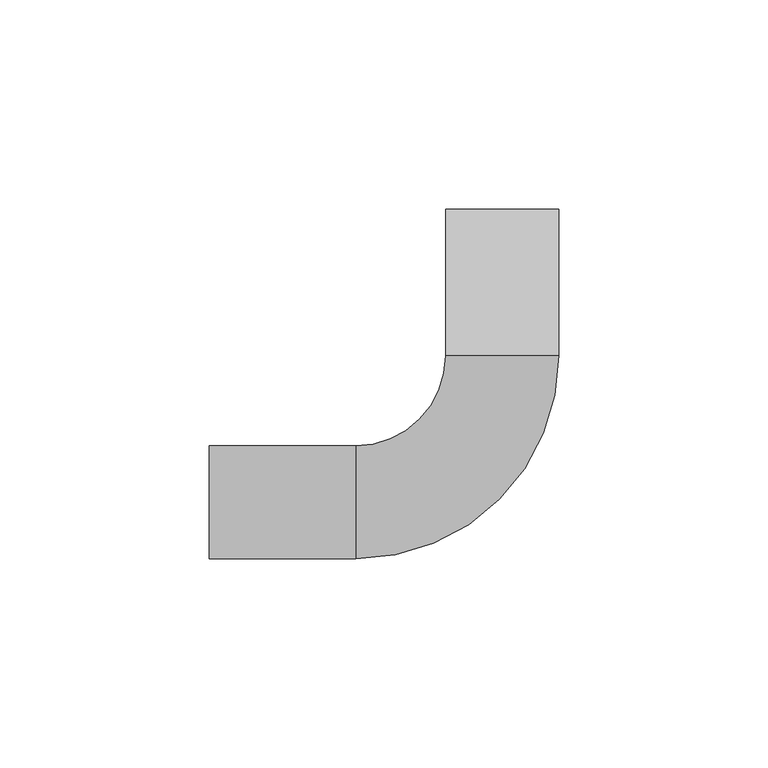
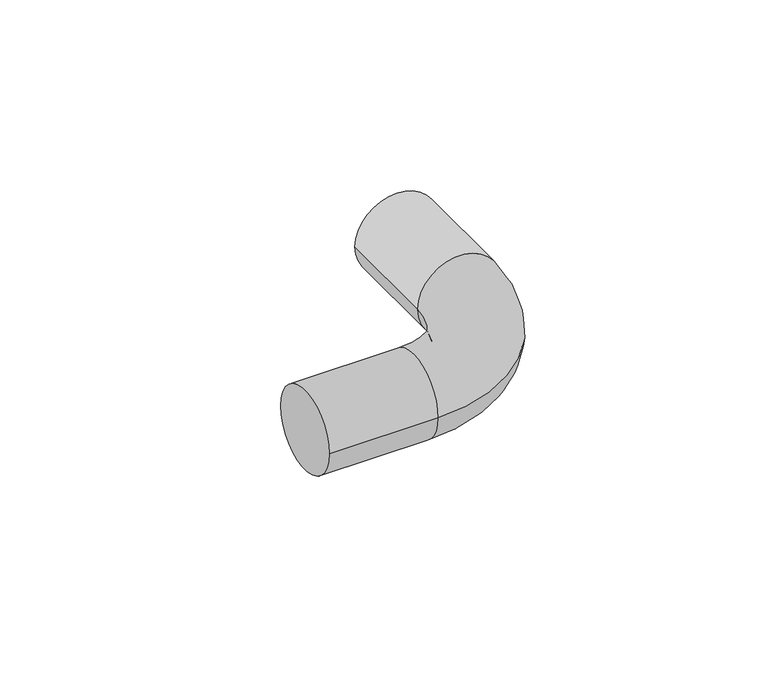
"""IFC4 building model written with IfcOpenShell, lengths in millimetres: cable carrier fitting geometry, Угол_90_соед._для_труб : Угол 90 соед. для трубы 25мм (25шт) серый."""

import ifcopenshell
import ifcopenshell.guid

model = None  # the IFC model being written
_history = None  # IfcOwnerHistory: only IFC2X3 demands one
_inside = {}  # id of a spatial element -> (the spatial element, [elements in it])
_under = {}  # id of a project, library or spatial element -> (it, [spatial elements below it])
_declared = {}  # id of a project -> (the project, [libraries it declares])
_typed = {}  # id of a type object -> (the type object, [elements of that type])
_made_of = {}  # id of a material, layer set ... -> (it, [elements and type objects made of it])


def new_model(schema):
    """Start an empty IFC model of exactly this schema.

    Asked for "IFC4X3", IfcOpenShell would pick the latest addendum, in which some entities
    have other attributes; the version numbers below select the first issue.
    IFC2X3 requires an IfcOwnerHistory on every rooted entity: one is made here for all.
    """
    global model, _history
    if schema == "IFC4X3":
        model = ifcopenshell.file(schema_version=(4, 3, 0, 0))
    else:
        model = ifcopenshell.file(schema=schema)
    _inside.clear()
    _under.clear()
    _declared.clear()
    _typed.clear()
    _made_of.clear()
    _history = None
    if model.schema == "IFC2X3":
        org = make("IfcOrganization", Name="unknown")
        user = make(
            "IfcPersonAndOrganization",
            ThePerson=make("IfcPerson", FamilyName="unknown"),
            TheOrganization=org,
        )
        app = make(
            "IfcApplication",
            ApplicationDeveloper=org,
            Version="unknown",
            ApplicationFullName="unknown",
            ApplicationIdentifier="unknown",
        )
        _history = make(
            "IfcOwnerHistory",
            OwningUser=user,
            OwningApplication=app,
            ChangeAction="ADDED",
            CreationDate=0,
        )
    return model


def make(cls, **values):
    """One entity of the class cls with the attributes given. An attribute that is None is left unset."""
    return model.create_entity(
        cls, **{name: value for name, value in values.items() if value is not None}
    )


def rooted(cls, **values):
    """An entity with a GlobalId (a new one), such as an element, a storey or a relation."""
    return make(cls, GlobalId=ifcopenshell.guid.new(), OwnerHistory=_history, **values)


def si_unit(unit_type, name, prefix=None):
    """IfcSIUnit, for example si_unit("LENGTHUNIT", "METRE", prefix="MILLI")."""
    return make("IfcSIUnit", UnitType=unit_type, Prefix=prefix, Name=name)


def assignment(units):
    """IfcUnitAssignment: the units of a project."""
    return None if units is None else make("IfcUnitAssignment", Units=units)


def point(xyz):
    """IfcCartesianPoint."""
    return None if xyz is None else make("IfcCartesianPoint", Coordinates=xyz)


def direction(xyz):
    """IfcDirection."""
    return None if xyz is None else make("IfcDirection", DirectionRatios=xyz)


def frame(location, z_axis=None, x_axis=None):
    """IfcAxis2Placement3D, a coordinate frame: its origin and axes. An axis left out is left unset."""
    return make(
        "IfcAxis2Placement3D",
        Location=point(location),
        Axis=direction(z_axis),
        RefDirection=direction(x_axis),
    )


def origin():
    """The frame at (0, 0, 0) with its axes left unset."""
    return frame((0.0, 0.0, 0.0))


def place(relative_to, where):
    """IfcLocalPlacement: puts the frame where relative to a parent placement (None: the world)."""
    return make(
        "IfcLocalPlacement", PlacementRelTo=relative_to, RelativePlacement=where
    )


def context(
    kind, dimensions, precision=None, world=None, true_north=None, identifier=None
):
    """IfcGeometricRepresentationContext, for example the 3D "Model" context."""
    return make(
        "IfcGeometricRepresentationContext",
        ContextIdentifier=identifier,
        ContextType=kind,
        CoordinateSpaceDimension=dimensions,
        Precision=precision,
        WorldCoordinateSystem=world,
        TrueNorth=true_north,
    )


def project(units=None, contexts=None):
    """IfcProject with its units and contexts."""
    return rooted(
        "IfcProject",
        Name="project",
        RepresentationContexts=contexts,
        UnitsInContext=assignment(units),
    )


def spatial(cls, under=None, at=None, **own):
    """A site, building, storey or space (cls), placed at a placement, below another one or the project."""
    s = rooted(cls, ObjectPlacement=at, **own)
    if under is not None:
        _under.setdefault(under.id(), (under, []))[1].append(s)
    return s


def circle_curve(where, radius):
    """IfcCircle in the frame where."""
    return make("IfcCircle", Position=where, Radius=radius)


def ellipse_curve(where, semi_axis1, semi_axis2):
    """IfcEllipse in the frame where."""
    return make(
        "IfcEllipse", Position=where, SemiAxis1=semi_axis1, SemiAxis2=semi_axis2
    )


def trimmed(basis, trim1, trim2, sense, master):
    """IfcTrimmedCurve: the piece of a basis curve between two trims."""
    return make(
        "IfcTrimmedCurve",
        BasisCurve=basis,
        Trim1=trim1,
        Trim2=trim2,
        SenseAgreement=sense,
        MasterRepresentation=master,
    )


def shape(context_of_items, identifier, shape_type, items):
    """IfcShapeRepresentation: the items that make up one representation, for example the "Body"."""
    return make(
        "IfcShapeRepresentation",
        ContextOfItems=context_of_items,
        RepresentationIdentifier=identifier,
        RepresentationType=shape_type,
        Items=items,
    )


def source(mapping_origin, context_of_items, identifier, shape_type, items):
    """IfcRepresentationMap: a shape defined once, which mapped items show again and again."""
    return make(
        "IfcRepresentationMap",
        MappingOrigin=mapping_origin,
        MappedRepresentation=shape(context_of_items, identifier, shape_type, items),
    )


def transform(
    local_origin,
    x_axis=None,
    y_axis=None,
    z_axis=None,
    scale=None,
    scale2=None,
    scale3=None,
    uniform=True,
):
    """IfcCartesianTransformationOperator3D, or its non-uniform kind. x_axis, y_axis, z_axis: its Axis1, 2, 3."""
    if uniform:
        return make(
            "IfcCartesianTransformationOperator3D",
            Axis1=direction(x_axis),
            Axis2=direction(y_axis),
            LocalOrigin=point(local_origin),
            Scale=scale,
            Axis3=direction(z_axis),
        )
    return make(
        "IfcCartesianTransformationOperator3DnonUniform",
        Axis1=direction(x_axis),
        Axis2=direction(y_axis),
        LocalOrigin=point(local_origin),
        Scale=scale,
        Axis3=direction(z_axis),
        Scale2=scale2,
        Scale3=scale3,
    )


def mapped(mapping_source, mapping_target):
    """IfcMappedItem: shows the shape of a source again, moved by a transform."""
    return make(
        "IfcMappedItem", MappingSource=mapping_source, MappingTarget=mapping_target
    )


def made_of(thing, what):
    """Note that an element or type object is made of a material, layer set ...; save() writes the relation."""
    if what is not None:
        _made_of.setdefault(what.id(), (what, []))[1].append(thing)
    return thing


def element(
    cls,
    number,
    at=None,
    inside=None,
    cuts=None,
    type_object=None,
    material=None,
    context=None,
    identifier="Body",
    shape_type=None,
    held_by="IfcProductDefinitionShape",
    body=None,
    shapes=None,
    **own,
):
    """One element of the class cls, such as IfcWall. Its Tag is "e" and its number.

    at: its placement. inside: the storey or other place that contains it. cuts: it is an
    opening in that element (IfcRelVoidsElement). A single representation is given by context,
    identifier, shape_type and body (its items); several are given by shapes. held_by: the class
    of the entity that holds the representations. save() writes the other relations.
    """
    e = rooted(cls, Tag="e%d" % number, ObjectPlacement=at, **own)
    if body is not None:
        shapes = [shape(context, identifier, shape_type, body)]
    if shapes is not None:
        e.Representation = make(held_by, Representations=shapes)
    if inside is not None:
        _inside.setdefault(inside.id(), (inside, []))[1].append(e)
    if cuts is not None:
        rooted(
            "IfcRelVoidsElement", RelatingBuildingElement=cuts, RelatedOpeningElement=e
        )
    if type_object is not None:
        _typed.setdefault(type_object.id(), (type_object, []))[1].append(e)
    return made_of(e, material)


def aggregate(whole, parts):
    """IfcRelAggregates: a whole, such as a stair, and the parts it consists of."""
    return rooted("IfcRelAggregates", RelatingObject=whole, RelatedObjects=parts)


def save(model, path):
    """Write the relations noted so far, then the file.

    IfcRelAggregates (storeys below a building ...), IfcRelContainedInSpatialStructure (elements
    in a storey), IfcRelDefinesByType, IfcRelAssociatesMaterial and IfcRelDeclares: one each for
    every whole, place, type object, material and project.
    """
    for whole, parts in _under.values():
        aggregate(whole, parts)
    for where, things in _inside.values():
        rooted(
            "IfcRelContainedInSpatialStructure",
            RelatedElements=things,
            RelatingStructure=where,
        )
    for kind, things in _typed.values():
        rooted("IfcRelDefinesByType", RelatedObjects=things, RelatingType=kind)
    for what, things in _made_of.values():
        rooted("IfcRelAssociatesMaterial", RelatedObjects=things, RelatingMaterial=what)
    for by, libraries in _declared.values():
        rooted("IfcRelDeclares", RelatingContext=by, RelatedDefinitions=libraries)
    model.write(path)


def plane_surface(at):
    """IfcPlane: the flat surface through the origin of the frame at, square to its z axis."""
    return make("IfcPlane", Position=at)


def cylinder_surface(at, radius):
    """IfcCylindricalSurface: all points at the distance radius from the z axis of the frame at."""
    return make("IfcCylindricalSurface", Position=at, Radius=radius)


def revolved_surface(curve, axis_point, axis_direction):
    """IfcSurfaceOfRevolution: the curve turned about the line through axis_point along axis_direction."""
    return make(
        "IfcSurfaceOfRevolution",
        SweptCurve=make("IfcArbitraryOpenProfileDef", ProfileType="CURVE", Curve=curve),
        AxisPosition=make("IfcAxis1Placement", Location=point(axis_point), Axis=direction(axis_direction)),
    )


def advanced_brep(points, edges, surfaces, faces):
    """IfcAdvancedBrep: a solid bounded by faces that lie on surfaces and meet in shared edges.

    An edge is (start, end): straight between two places in points (the first is 0);
    or (start, end, curve); or (start, end, curve, False) where it runs against its curve.
    A face is (place in surfaces, loops), or (place, loops, False) where it looks against
    its surface's normal. A loop lists edges by number (the first is 1), with a minus sign
    where the edge is run from its end to its start. The first loop is the outer one.
    """
    corners = [point(p) for p in points]
    vertices = [make("IfcVertexPoint", VertexGeometry=c) for c in corners]
    made = []
    for start, end, *more in edges:
        made.append(
            make(
                "IfcEdgeCurve",
                EdgeStart=vertices[start],
                EdgeEnd=vertices[end],
                EdgeGeometry=more[0] if more else make("IfcPolyline", Points=[corners[start], corners[end]]),
                SameSense=more[1] if len(more) > 1 else True,
            )
        )
    hull = []
    for where, loops, *sense in faces:
        bounds = []
        for j, loop in enumerate(loops):
            ring = [make("IfcOrientedEdge", EdgeElement=made[abs(k) - 1], Orientation=k > 0) for k in loop]
            bounds.append(
                make(
                    "IfcFaceOuterBound" if j == 0 else "IfcFaceBound",
                    Bound=make("IfcEdgeLoop", EdgeList=ring),
                    Orientation=True,
                )
            )
        hull.append(make("IfcAdvancedFace", Bounds=bounds, FaceSurface=surfaces[where], SameSense=sense[0] if sense else True))
    return make("IfcAdvancedBrep", Outer=make("IfcClosedShell", CfsFaces=hull))


def cable_carrier_fitting_09f9ef3d(model_context):
    return source(origin(), model_context, "Body", "AdvancedBrep", [
        advanced_brep(
        [(-70.0, -13.5, 0.0), (-70.0, 13.5, 0.0), (-35.0, -13.5, 0.0), (-35.0, 13.5, 0.0), (-13.5, 35.0, 0.0), (13.5, 35.0, 0.0), (13.5, 70.0, 0.0), (-13.5, 70.0, 0.0)],
        [
            (0, 1, circle_curve(frame((-70.0, 0.0, 0.0), z_axis=(-1.0, 0.0, 0.0), x_axis=(0.0, 1.0, 0.0)), 13.5)),
            (1, 0, circle_curve(frame((-70.0, 0.0, 0.0), z_axis=(-1.0, 0.0, 0.0), x_axis=(0.0, 1.0, 0.0)), 13.5)),
            (0, 2),
            (2, 3, circle_curve(frame((-35.0, 0.0, 0.0), z_axis=(-1.0, 0.0, 0.0), x_axis=(0.0, 1.0, 0.0)), 13.5)),
            (3, 1),
            (3, 2, circle_curve(frame((-35.0, 0.0, 0.0), z_axis=(-1.0, 0.0, 0.0), x_axis=(0.0, 1.0, 0.0)), 13.5)),
            (4, 3, circle_curve(frame((-35.0, 35.0, 0.0), z_axis=(0.0, 0.0, -1.0), x_axis=(0.0, -1.0, 0.0)), 21.5)),
            (2, 5, circle_curve(frame((-35.0, 35.0, 0.0), z_axis=(0.0, 0.0, 1.0), x_axis=(0.0, -1.0, 0.0)), 48.5)),
            (5, 4, circle_curve(frame((0.0, 35.0, 0.0), z_axis=(0.0, -1.0, 0.0), x_axis=(-1.0, 0.0, 0.0)), 13.5)),
            (4, 5, circle_curve(frame((0.0, 35.0, 0.0), z_axis=(0.0, -1.0, 0.0), x_axis=(-1.0, 0.0, 0.0)), 13.5)),
            (6, 7, circle_curve(frame((0.0, 70.0, 0.0), z_axis=(0.0, 1.0, 0.0), x_axis=(-1.0, 0.0, 0.0)), 13.5)),
            (7, 6, circle_curve(frame((0.0, 70.0, 0.0), z_axis=(0.0, 1.0, 0.0), x_axis=(-1.0, 0.0, 0.0)), 13.5)),
            (5, 6),
            (7, 4),
        ],
        [
            plane_surface(frame((-70.0, 0.0, 0.0), z_axis=(-1.0, 0.0, 0.0), x_axis=(0.0, 0.0, 1.0))),
            cylinder_surface(frame((-70.0, 0.0, 0.0), z_axis=(-1.0, 0.0, 0.0), x_axis=(0.0, 1.0, 0.0)), 13.5),
            revolved_surface(trimmed(ellipse_curve(frame((-35.0, 0.0, 0.0), z_axis=(-1.0, 0.0, 0.0), x_axis=(0.0, 1.0, 0.0)), 13.5, 13.5), [point((-35.0, -13.5, 0.0))], [point((-35.0, 13.5, 0.0))], True, "CARTESIAN"), (-35.0, 35.0, 0.0), (0.0, 0.0, 1.0)),
            revolved_surface(trimmed(ellipse_curve(frame((-35.0, 0.0, 0.0), z_axis=(-1.0, 0.0, 0.0), x_axis=(0.0, 1.0, 0.0)), 13.5, 13.5), [point((-35.0, 13.5, 0.0))], [point((-35.0, -13.5, 0.0))], True, "CARTESIAN"), (-35.0, 35.0, 0.0), (0.0, 0.0, 1.0)),
            plane_surface(frame((0.0, 70.0, 0.0), z_axis=(0.0, 1.0, 0.0), x_axis=(0.0, 0.0, 1.0))),
            cylinder_surface(frame((0.0, 35.0, 0.0), z_axis=(0.0, -1.0, 0.0), x_axis=(-1.0, 0.0, 0.0)), 13.5),
        ],
        [
            (0, [[1, 2]]),
            (1, [[-1, 3, 4, 5]]),
            (1, [[-2, -5, 6, -3]]),
            (2, [[7, -4, 8, 9]]),
            (3, [[-8, -6, -7, 10]]),
            (4, [[11, 12]]),
            (5, [[-9, 13, -12, 14]]),
            (5, [[-10, -14, -11, -13]]),
        ],
    ),
    ])


if __name__ == "__main__":
    model = new_model("IFC4")
    model_context = context("Model", 3, world=origin())
    ifc_project = project(units=[si_unit("LENGTHUNIT", "METRE", prefix="MILLI")], contexts=[model_context])
    site = spatial("IfcSite", under=ifc_project)
    building = spatial("IfcBuilding", under=site)
    placement = place(None, origin())
    cable_carrier_fitting_shape = cable_carrier_fitting_09f9ef3d(model_context)
    element("IfcCableCarrierFitting", 1, ObjectType="Угол_90_соед._для_труб : Угол 90 соед. для трубы 25мм (25шт) серый", at=placement, inside=building, context=model_context, shape_type="MappedRepresentation", body=[
        mapped(cable_carrier_fitting_shape, transform((0.0, 0.0, 0.0), x_axis=(1.0, 0.0, 0.0), y_axis=(0.0, 1.0, 0.0), z_axis=(0.0, 0.0, 1.0))),
    ])
    save(model, "model.ifc")
